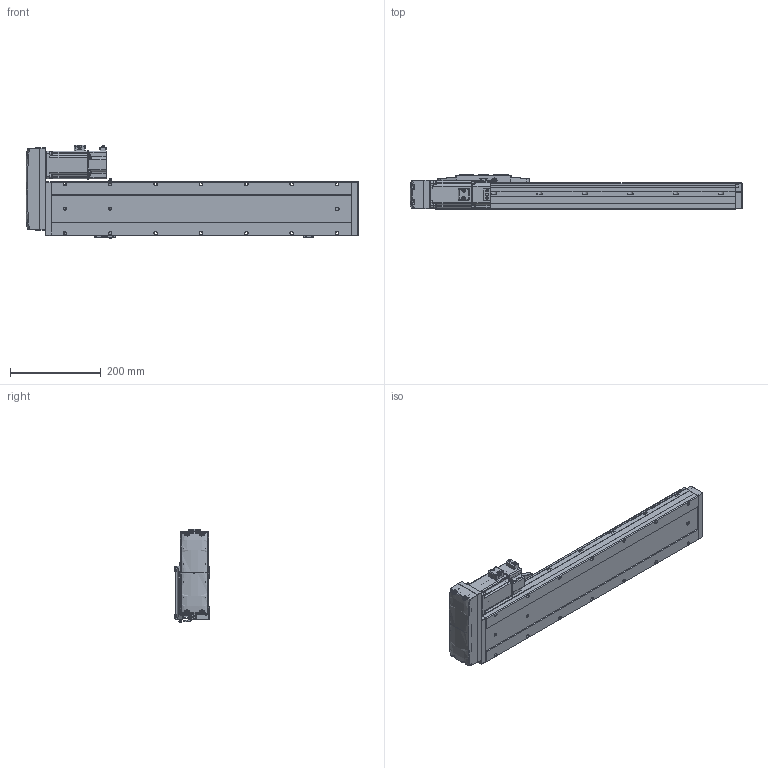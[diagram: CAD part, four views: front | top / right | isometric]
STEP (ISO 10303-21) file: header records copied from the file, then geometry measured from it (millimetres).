
FILE_DESCRIPTION (( 'STEP AP214' ), '1' );
FILE_NAME ('CTH12-L10-S450-BL-C40（简）.STEP', '2023-02-06T05:03:38', ( '' ), ( '' ), 'SwSTEP 2.0', 'SolidWorks 2018', '' );
FILE_SCHEMA (( 'AUTOMOTIVE_DESIGN' ));
Length unit declared in the file: millimetre
Products named in the file (24): 内六角圆柱头螺钉M3; CTH12-BL_body_4; CTH12賑怢ㄗ潠ㄘ; CTH嫖萇羲壽假蚾啣; CTH12耜蚾裔; CTH12賑怢郪磁; CTH12_body_3; 嫖萇羲壽郪磁1; 内六角圆柱头螺钉M3-1; CTH12; CTH12侧装连接板（标准）简; 400W萇儂; CTH12覜茼え; CTH12-L10-S450-BL-C40（简）; PM-Y45; CTH400W垫板（3个厚）; CTH400W假蚾啣; CTH12底座-L651简（450行程）; hex nuts, style 1-grades ab gb_GB_FASTENER_NUT_SNAB1 M3-N; M5蹟隊; 蚐郲; 湮賑怢  裔赽-1(CTH12)賑怢; 内六角圆柱头螺钉M3-2; 嫖萇羲壽郪磁2
Assembly tree (44 placements, depth 4):
  CTH12-L10-S450-BL-C40（简）
    CTH12底座-L651简（450行程）
    蚐郲  x2
    CTH12_body_3
    CTH12-BL_body_4
    CTH12侧装连接板（标准）简
    CTH12耜蚾裔
    CTH12賑怢郪磁
      CTH12
        湮賑怢  裔赽-1(CTH12)賑怢
        CTH12賑怢ㄗ潠ㄘ
    CTH12覜茼え
    CTH400W垫板（3个厚）
    400W萇儂
    内六角圆柱头螺钉M3  x6
    M5蹟隊  x4
    嫖萇羲壽郪磁1
      CTH嫖萇羲壽假蚾啣
      PM-Y45
      内六角圆柱头螺钉M3-2  x2
      内六角圆柱头螺钉M3-1  x2
      hex nuts, style 1-grades ab gb_GB_FASTENER_NUT_SNAB1 M3-N  x2
    嫖萇羲壽郪磁2  x2
      CTH嫖萇羲壽假蚾啣
      PM-Y45
      内六角圆柱头螺钉M3-1
      内六角圆柱头螺钉M3-2
      hex nuts, style 1-grades ab gb_GB_FASTENER_NUT_SNAB1 M3-N
    CTH400W假蚾啣
Bounding box: 731.5 x 76 x 205.26 mm (x, y, z)
Volume: 5068145.5 mm3; surface area: 596049 mm2
Topology: 47 solids, 48 shells, 3149 faces, 7850 edges, 4923 vertices
Faces by surface type: plane 1530, cylinder 908, cone 403, bspline 180, torus 124, sphere 4
Entity records: 103394 total; most frequent: CARTESIAN_POINT 38626, ORIENTED_EDGE 12802, DIRECTION 12083, EDGE_CURVE 6401, AXIS2_PLACEMENT_3D 4232, VERTEX_POINT 4027, LINE 3619, VECTOR 3619
